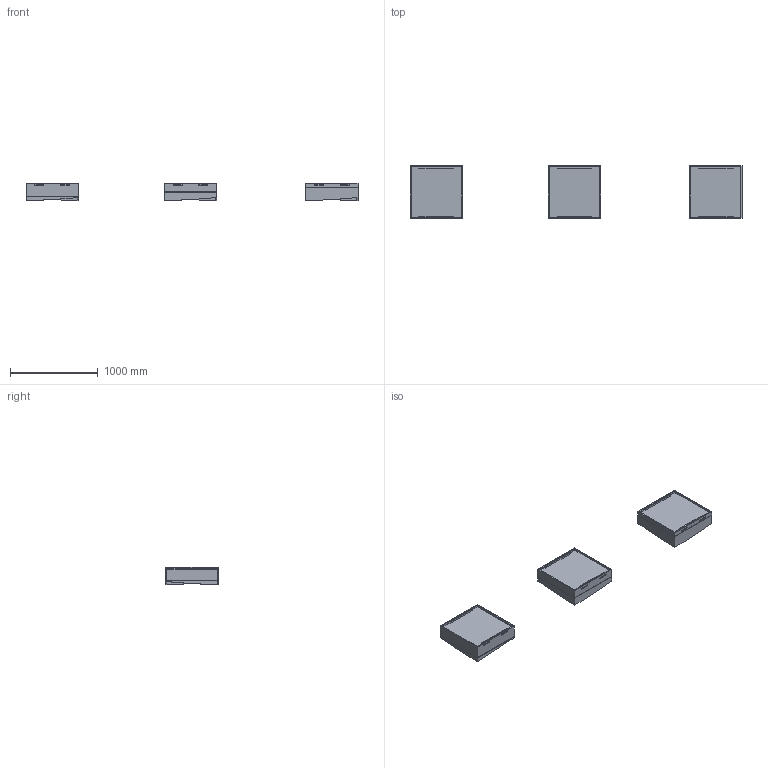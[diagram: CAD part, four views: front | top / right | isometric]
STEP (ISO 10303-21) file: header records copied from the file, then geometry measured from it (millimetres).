
FILE_DESCRIPTION(/* description */ (''),/* implementation_level */ '2;1');
FILE_NAME(/* name */ 'Coffa_Profile_9',/* time_stamp */ '2026-07-21T14:46:24-05:00',/* author */ (''),/* organization */ (''),/* preprocessor_version */ 'ST-DEVELOPER v19.2',/* originating_system */ 'Rhino 8.32',/* authorisation */ '');
FILE_SCHEMA (('CONFIG_CONTROL_DESIGN'));
Length unit declared in the file: inch
Products named in the file (1): Document
Bounding box: 3786.87 x 596.9 x 203.2 mm (x, y, z)
Volume: 28128673 mm3; surface area: 5175816.1 mm2
Topology: 21 solids, 21 shells, 282 faces, 732 edges, 492 vertices
Faces by surface type: plane 270, bspline 12
Entity records: 8105 total; most frequent: CARTESIAN_POINT 2877, ORIENTED_EDGE 1440, B_SPLINE_CURVE_WITH_KNOTS 732, EDGE_CURVE 720, VERTEX_POINT 480, EDGE_LOOP 306, ADVANCED_FACE 282, FACE_OUTER_BOUND 282
